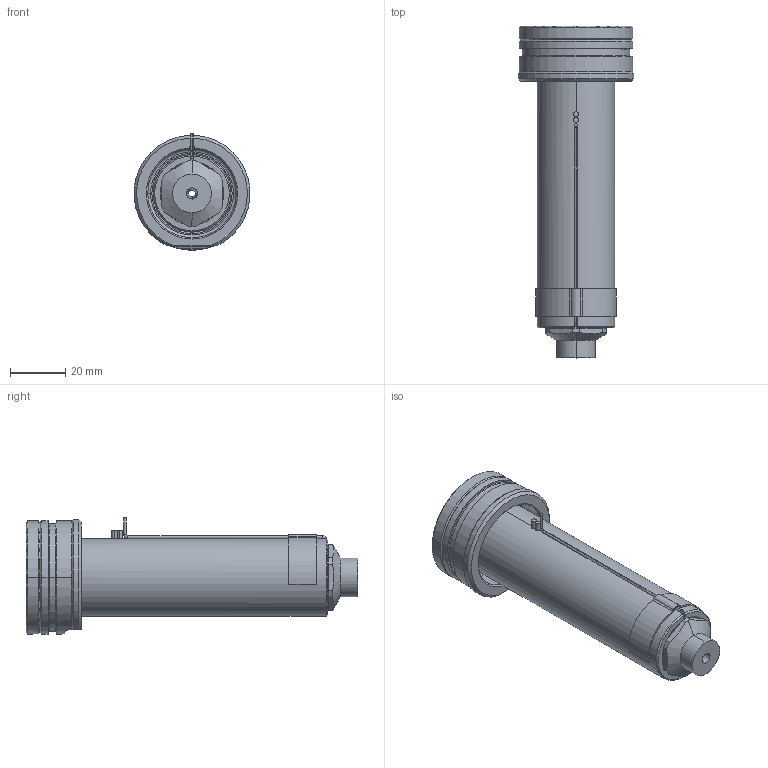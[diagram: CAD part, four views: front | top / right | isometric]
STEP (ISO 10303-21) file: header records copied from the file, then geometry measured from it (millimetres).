
FILE_DESCRIPTION((''),'2;1');
FILE_NAME('EO10_VG-ST_STD_100_SW','2024-02-19T12:46:19',('sundharh'),(''),'CREO PARAMETRIC BY PTC INC, 2023154','CREO PARAMETRIC BY PTC INC, 2023154','');
FILE_SCHEMA(('CONFIG_CONTROL_DESIGN'));
Length unit declared in the file: millimetre
Products named in the file (1): EO10_VG-ST_STD_100_SW
Bounding box: 41.85 x 120 x 42.02 mm (x, y, z)
Volume: 72711.4 mm3; surface area: 20262.1 mm2
Topology: 1 solids, 1 shells, 165 faces, 424 edges, 263 vertices
Faces by surface type: cylinder 63, plane 45, cone 33, torus 17, bspline 5, sphere 2
Entity records: 5768 total; most frequent: CARTESIAN_POINT 1664, DIRECTION 895, ORIENTED_EDGE 844, EDGE_CURVE 422, AXIS2_PLACEMENT_3D 369, VERTEX_POINT 263, CIRCLE 209, EDGE_LOOP 179
